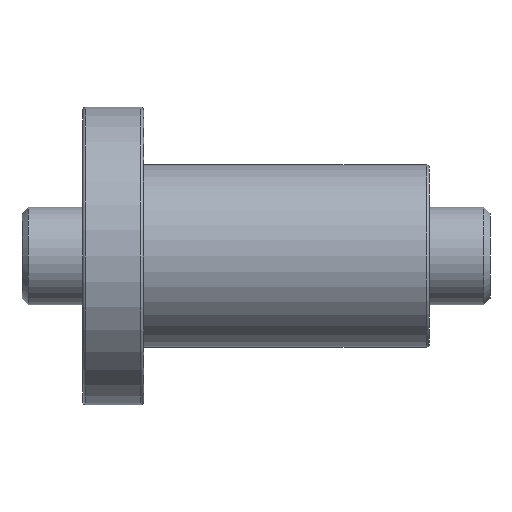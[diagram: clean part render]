
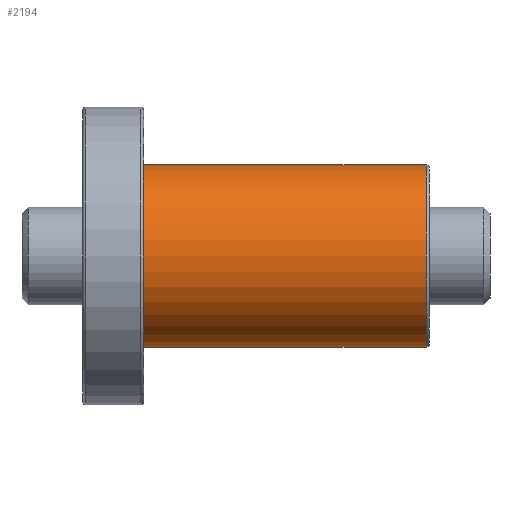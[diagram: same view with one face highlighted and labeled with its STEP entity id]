
A CAD part, front view. The second image highlights one B-rep face of the part: STEP entity #2194.
In plain terms, the highlighted cylindrical face has radius 15 mm (diameter 30 mm), a partial arc.
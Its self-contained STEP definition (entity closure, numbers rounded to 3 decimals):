
#359 = ORIENTED_EDGE ( 'NONE', *, *, #4100, .F. ) ;
#377 = DIRECTION ( 'NONE',  ( 0., 0., 1. ) ) ;
#394 = CIRCLE ( 'NONE', #418, 15. ) ;
#410 = EDGE_CURVE ( 'NONE', #1161, #2406, #2072, .T. ) ;
#418 = AXIS2_PLACEMENT_3D ( 'NONE', #949, #621, #1272 ) ;
#515 = AXIS2_PLACEMENT_3D ( 'NONE', #649, #1313, #377 ) ;
#549 = DIRECTION ( 'NONE',  ( -1., 0., 0. ) ) ;
#621 = DIRECTION ( 'NONE',  ( 1., 0., 0. ) ) ;
#649 = CARTESIAN_POINT ( 'NONE',  ( 50., 0., 0. ) ) ;
#798 = CARTESIAN_POINT ( 'NONE',  ( 56.5, 0., 15. ) ) ;
#878 = ORIENTED_EDGE ( 'NONE', *, *, #410, .T. ) ;
#901 = EDGE_CURVE ( 'NONE', #3722, #2169, #394, .T. ) ;
#949 = CARTESIAN_POINT ( 'NONE',  ( 10., 0., 0. ) ) ;
#1161 = VERTEX_POINT ( 'NONE', #1423 ) ;
#1173 = CARTESIAN_POINT ( 'NONE',  ( 56.5, 0., 0. ) ) ;
#1272 = DIRECTION ( 'NONE',  ( 0., 0., -1. ) ) ;
#1313 = DIRECTION ( 'NONE',  ( -1., 0., 0. ) ) ;
#1423 = CARTESIAN_POINT ( 'NONE',  ( 56.5, 0., -15. ) ) ;
#1493 = DIRECTION ( 'NONE',  ( 0., 0., -1. ) ) ;
#1640 = DIRECTION ( 'NONE',  ( -1., 0., 0. ) ) ;
#2072 = CIRCLE ( 'NONE', #3955, 15. ) ;
#2169 = VERTEX_POINT ( 'NONE', #2974 ) ;
#2194 = ADVANCED_FACE ( 'NONE', ( #2845 ), #3604, .T. ) ;
#2278 = LINE ( 'NONE', #3938, #3909 ) ;
#2286 = CARTESIAN_POINT ( 'NONE',  ( 10., 0., 15. ) ) ;
#2352 = EDGE_LOOP ( 'NONE', ( #359, #878, #3919, #2788 ) ) ;
#2406 = VERTEX_POINT ( 'NONE', #798 ) ;
#2553 = CARTESIAN_POINT ( 'NONE',  ( 50., 0., -15. ) ) ;
#2630 = EDGE_CURVE ( 'NONE', #2406, #3722, #2278, .T. ) ;
#2788 = ORIENTED_EDGE ( 'NONE', *, *, #901, .T. ) ;
#2845 = FACE_OUTER_BOUND ( 'NONE', #2352, .T. ) ;
#2883 = VECTOR ( 'NONE', #3193, 1000. ) ;
#2974 = CARTESIAN_POINT ( 'NONE',  ( 10., 0., -15. ) ) ;
#3077 = LINE ( 'NONE', #2553, #2883 ) ;
#3193 = DIRECTION ( 'NONE',  ( -1., 0., 0. ) ) ;
#3604 = CYLINDRICAL_SURFACE ( 'NONE', #515, 15. ) ;
#3722 = VERTEX_POINT ( 'NONE', #2286 ) ;
#3909 = VECTOR ( 'NONE', #1640, 1000. ) ;
#3919 = ORIENTED_EDGE ( 'NONE', *, *, #2630, .T. ) ;
#3938 = CARTESIAN_POINT ( 'NONE',  ( 50., 0., 15. ) ) ;
#3955 = AXIS2_PLACEMENT_3D ( 'NONE', #1173, #549, #1493 ) ;
#4100 = EDGE_CURVE ( 'NONE', #1161, #2169, #3077, .T. ) ;
